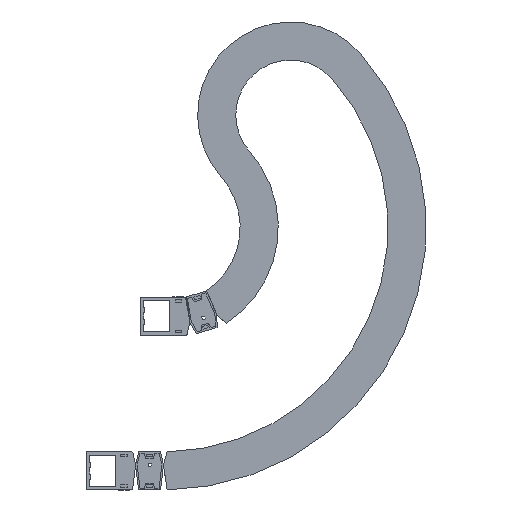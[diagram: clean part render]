
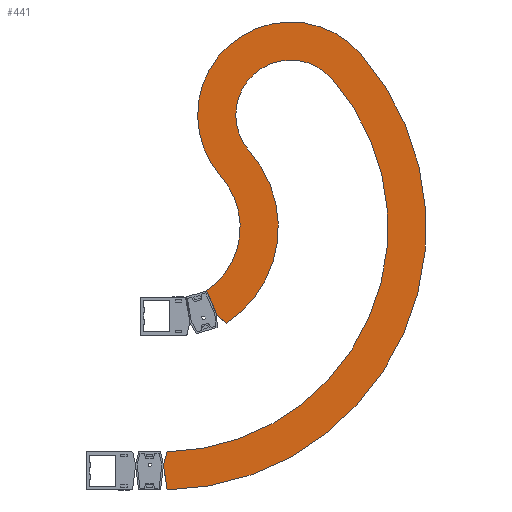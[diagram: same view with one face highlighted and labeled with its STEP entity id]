
A CAD part, front view. The second image highlights one B-rep face of the part: STEP entity #441.
In plain terms, the highlighted planar face has unit normal (0, -1, 0).
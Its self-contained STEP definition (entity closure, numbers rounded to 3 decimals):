
#441 = ADVANCED_FACE( '', ( #1059 ), #1060, .F. );
#1059 = FACE_OUTER_BOUND( '', #1919, .T. );
#1060 = PLANE( '', #1920 );
#1919 = EDGE_LOOP( '', ( #3020, #3021, #3022, #3023, #3024, #3025, #3026, #3027, #3028, #3029 ) );
#1920 = AXIS2_PLACEMENT_3D( '', #3030, #3031, #3032 );
#3020 = ORIENTED_EDGE( '', *, *, #5448, .F. );
#3021 = ORIENTED_EDGE( '', *, *, #5449, .F. );
#3022 = ORIENTED_EDGE( '', *, *, #5450, .F. );
#3023 = ORIENTED_EDGE( '', *, *, #5451, .T. );
#3024 = ORIENTED_EDGE( '', *, *, #5452, .F. );
#3025 = ORIENTED_EDGE( '', *, *, #5327, .F. );
#3026 = ORIENTED_EDGE( '', *, *, #5251, .F. );
#3027 = ORIENTED_EDGE( '', *, *, #5453, .T. );
#3028 = ORIENTED_EDGE( '', *, *, #5454, .T. );
#3029 = ORIENTED_EDGE( '', *, *, #5455, .F. );
#3030 = CARTESIAN_POINT( '', ( 0., -60., 0. ) );
#3031 = DIRECTION( '', ( 0., 1., 0. ) );
#3032 = DIRECTION( '', ( 0., 0., 1. ) );
#5251 = EDGE_CURVE( '', #6301, #6302, #6303, .T. );
#5327 = EDGE_CURVE( '', #6302, #6439, #6440, .T. );
#5448 = EDGE_CURVE( '', #6648, #6649, #6650, .T. );
#5449 = EDGE_CURVE( '', #6651, #6648, #6652, .T. );
#5450 = EDGE_CURVE( '', #6653, #6651, #6654, .T. );
#5451 = EDGE_CURVE( '', #6653, #6655, #6656, .T. );
#5452 = EDGE_CURVE( '', #6439, #6655, #6657, .T. );
#5453 = EDGE_CURVE( '', #6301, #6658, #6659, .T. );
#5454 = EDGE_CURVE( '', #6658, #6660, #6661, .T. );
#5455 = EDGE_CURVE( '', #6649, #6660, #6662, .T. );
#6301 = VERTEX_POINT( '', #7857 );
#6302 = VERTEX_POINT( '', #7858 );
#6303 = CIRCLE( '', #7859, 247. );
#6439 = VERTEX_POINT( '', #8051 );
#6440 = LINE( '', #8052, #8053 );
#6648 = VERTEX_POINT( '', #8346 );
#6649 = VERTEX_POINT( '', #8347 );
#6650 = LINE( '', #8348, #8349 );
#6651 = VERTEX_POINT( '', #8350 );
#6652 = CIRCLE( '', #8351, 565. );
#6653 = VERTEX_POINT( '', #8352 );
#6654 = CIRCLE( '', #8353, 200. );
#6655 = VERTEX_POINT( '', #8354 );
#6656 = CIRCLE( '', #8355, 165. );
#6657 = LINE( '', #8356, #8357 );
#6658 = VERTEX_POINT( '', #8358 );
#6659 = CIRCLE( '', #8359, 118. );
#6660 = VERTEX_POINT( '', #8360 );
#6661 = CIRCLE( '', #8361, 483. );
#6662 = LINE( '', #8362, #8363 );
#7857 = CARTESIAN_POINT( '', ( 185.08, -60., 163.567 ) );
#7858 = CARTESIAN_POINT( '', ( 135.342, -60., -206.619 ) );
#7859 = AXIS2_PLACEMENT_3D( '', #9934, #9935, #9936 );
#8051 = CARTESIAN_POINT( '', ( 114.074, -60., -186.71 ) );
#8052 = CARTESIAN_POINT( '', ( 135.342, -60., -206.619 ) );
#8053 = VECTOR( '', #10023, 1000. );
#8346 = CARTESIAN_POINT( '', ( 7.873, -60., -564.945 ) );
#8347 = CARTESIAN_POINT( '', ( 0., -60., -511.2 ) );
#8348 = CARTESIAN_POINT( '', ( 7.873, -60., -564.945 ) );
#8349 = VECTOR( '', #10154, 1000. );
#8350 = CARTESIAN_POINT( '', ( 423.362, -60., 374.152 ) );
#8351 = AXIS2_PLACEMENT_3D( '', #10155, #10156, #10157 );
#8352 = CARTESIAN_POINT( '', ( 123.637, -60., 109.266 ) );
#8353 = AXIS2_PLACEMENT_3D( '', #10158, #10159, #10160 );
#8354 = CARTESIAN_POINT( '', ( 92.675, -60., -136.515 ) );
#8355 = AXIS2_PLACEMENT_3D( '', #10161, #10162, #10163 );
#8356 = CARTESIAN_POINT( '', ( 114.074, -60., -186.71 ) );
#8357 = VECTOR( '', #10164, 1000. );
#8358 = CARTESIAN_POINT( '', ( 361.918, -60., 319.85 ) );
#8359 = AXIS2_PLACEMENT_3D( '', #10165, #10166, #10167 );
#8360 = CARTESIAN_POINT( '', ( 7.82, -60., -482.937 ) );
#8361 = AXIS2_PLACEMENT_3D( '', #10168, #10169, #10170 );
#8362 = CARTESIAN_POINT( '', ( 0., -60., -511.2 ) );
#8363 = VECTOR( '', #10171, 1000. );
#9934 = CARTESIAN_POINT( '', ( 0., -60., 0. ) );
#9935 = DIRECTION( '', ( 0., 1., 0. ) );
#9936 = DIRECTION( '', ( 1., 0., 0. ) );
#10023 = DIRECTION( '', ( -0.73, 0., 0.683 ) );
#10154 = DIRECTION( '', ( -0.145, 0., 0.989 ) );
#10155 = CARTESIAN_POINT( '', ( 0., -60., 0. ) );
#10156 = DIRECTION( '', ( 0., 1., 0. ) );
#10157 = DIRECTION( '', ( 1., 0., 0. ) );
#10158 = CARTESIAN_POINT( '', ( 273.499, -60., 241.709 ) );
#10159 = DIRECTION( '', ( 0., 1., 0. ) );
#10160 = DIRECTION( '', ( 1., 0., 0. ) );
#10161 = CARTESIAN_POINT( '', ( 0., -60., 0. ) );
#10162 = DIRECTION( '', ( 0., 1., 0. ) );
#10163 = DIRECTION( '', ( 1., 0., 0. ) );
#10164 = DIRECTION( '', ( -0.392, 0., 0.92 ) );
#10165 = CARTESIAN_POINT( '', ( 273.499, -60., 241.709 ) );
#10166 = DIRECTION( '', ( 0., 1., 0. ) );
#10167 = DIRECTION( '', ( 1., 0., 0. ) );
#10168 = CARTESIAN_POINT( '', ( 0., -60., 0. ) );
#10169 = DIRECTION( '', ( 0., 1., 0. ) );
#10170 = DIRECTION( '', ( 1., 0., 0. ) );
#10171 = DIRECTION( '', ( 0.267, 0., 0.964 ) );
